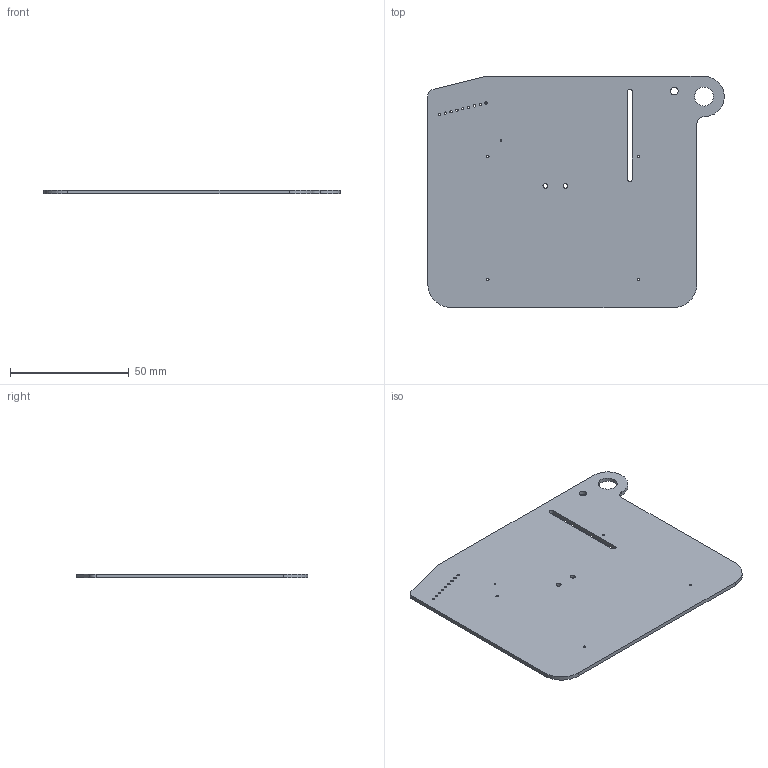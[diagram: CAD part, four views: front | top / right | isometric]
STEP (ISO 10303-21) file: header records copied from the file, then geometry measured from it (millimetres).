
FILE_DESCRIPTION(('Open CASCADE Model'),'2;1');
FILE_NAME('Open CASCADE Shape Model','2018-11-02T09:20:36',('Author'),( 'Open CASCADE'),'Open CASCADE STEP processor 6.8','Open CASCADE 6.8' ,'Unknown');
FILE_SCHEMA(('AUTOMOTIVE_DESIGN_CC2 { 1 2 10303 214 -1 1 5 4 }'));
Length unit declared in the file: millimetre
Products named in the file (2): PCB; Board
Assembly tree (1 placements, depth 2):
  PCB
    Board
Bounding box: 125 x 97.5 x 1.65 mm (x, y, z)
Volume: 18044.6 mm3; surface area: 22902.7 mm2
Topology: 1 solids, 1 shells, 34 faces, 96 edges, 64 vertices
Faces by surface type: cylinder 25, plane 9
Full cylindrical faces by diameter (mm): 0.711 x1, 1 x13, 2.032 x2, 3.2 x1, 8 x1
Entity records: 2637 total; most frequent: CARTESIAN_POINT 676, DIRECTION 362, ORIENTED_EDGE 192, PCURVE 192, DEFINITIONAL_REPRESENTATION 192, LINE 188, VECTOR 188, EDGE_CURVE 96
